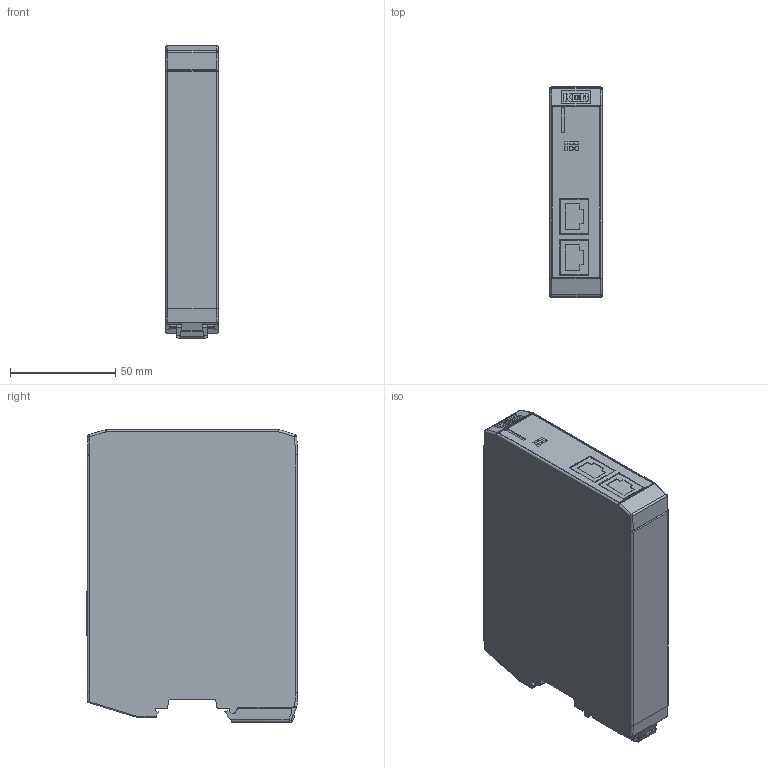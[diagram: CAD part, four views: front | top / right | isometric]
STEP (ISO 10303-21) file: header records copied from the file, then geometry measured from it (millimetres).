
FILE_DESCRIPTION (( 'STEP AP214' ), '1' );
FILE_NAME ('00C6BE1-1004.STEP', '2025-05-12T13:41:40', ( '' ), ( '' ), 'SwSTEP 2.0', 'SolidWorks 2022', '' );
FILE_SCHEMA (( 'AUTOMOTIVE_DESIGN' ));
Length unit declared in the file: millimetre
Products named in the file (1): 00C6BE1-1004
Bounding box: 25 x 100.29 x 139.25 mm (x, y, z)
Volume: 331633.2 mm3; surface area: 38935.2 mm2
Topology: 1 solids, 1 shells, 333 faces, 886 edges, 568 vertices
Faces by surface type: plane 215, cylinder 83, bspline 35
Entity records: 12013 total; most frequent: CARTESIAN_POINT 4093, ORIENTED_EDGE 1756, DIRECTION 1420, EDGE_CURVE 878, LINE 626, VECTOR 626, VERTEX_POINT 568, AXIS2_PLACEMENT_3D 397
